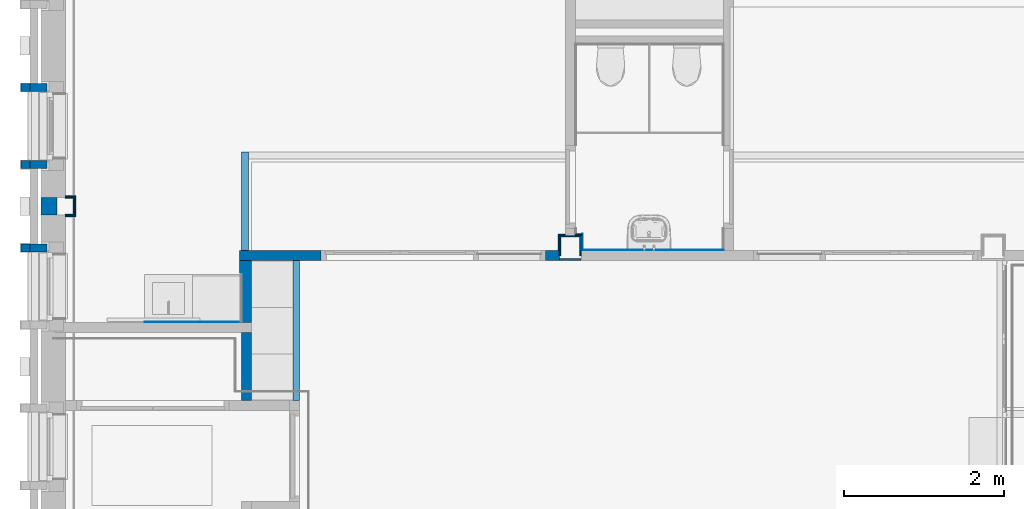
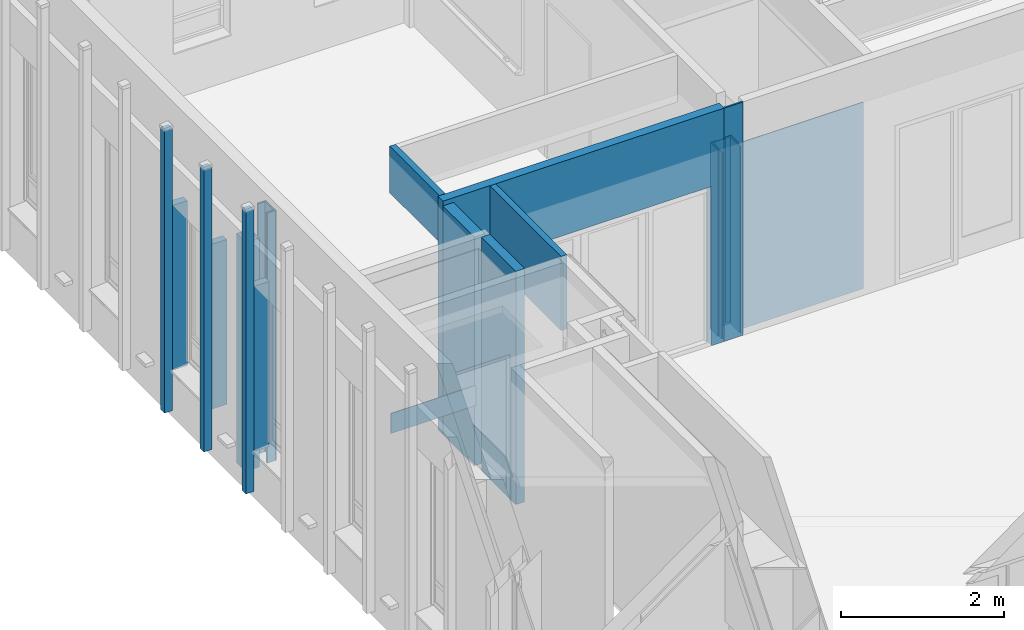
# One storey, part 51 of 118: 30 walls, 1 opening.
"""IFC2X3 building model written with IfcOpenShell, lengths in millimetres."""

from ifc_helpers import new_model, entity, si_unit, converted_unit, derived_unit, direction, frame, frame_2d, origin, place, context, subcontext, project, spatial, rectangle, extrude, material, layer, layer_set, layer_usage, type_object, element, save


model = new_model("IFC2X3")

# Units and contexts
model_context = context("Model", 3, precision=0.01, world=origin(), true_north=direction((6.123031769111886e-17, 1.0)))
plan_context = context("Plan", 3, precision=0.01, world=origin(), true_north=direction((6.123031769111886e-17, 1.0)))
body_context = subcontext(model_context, "Body", "Model", "MODEL_VIEW")
ifc_project = project(units=[si_unit("LENGTHUNIT", "METRE", prefix="MILLI"), si_unit("AREAUNIT", "SQUARE_METRE"), si_unit("VOLUMEUNIT", "CUBIC_METRE"), converted_unit("PLANEANGLEUNIT", "DEGREE", entity("IfcRatioMeasure", 0.017453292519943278), si_unit("PLANEANGLEUNIT", "RADIAN"), dimensions=[0, 0, 0, 0, 0, 0, 0]), si_unit("MASSUNIT", "GRAM", prefix="KILO"), derived_unit("MASSDENSITYUNIT", [(si_unit("MASSUNIT", "GRAM", prefix="KILO"), 1), (si_unit("LENGTHUNIT", "METRE"), -3)]), derived_unit("IONCONCENTRATIONUNIT", [(si_unit("MASSUNIT", "GRAM", prefix="KILO"), 1), (si_unit("LENGTHUNIT", "METRE"), -3)]), derived_unit("MOMENTOFINERTIAUNIT", [(si_unit("LENGTHUNIT", "METRE"), 4)]), si_unit("TIMEUNIT", "SECOND"), si_unit("FREQUENCYUNIT", "HERTZ"), si_unit("THERMODYNAMICTEMPERATUREUNIT", "DEGREE_CELSIUS"), derived_unit("THERMALTRANSMITTANCEUNIT", [(si_unit("MASSUNIT", "GRAM", prefix="KILO"), 1), (si_unit("THERMODYNAMICTEMPERATUREUNIT", "KELVIN"), -1), (si_unit("TIMEUNIT", "SECOND"), -3)]), derived_unit("THERMALCONDUCTANCEUNIT", [(si_unit("MASSUNIT", "GRAM", prefix="KILO"), 1), (si_unit("THERMODYNAMICTEMPERATUREUNIT", "KELVIN"), -1), (si_unit("TIMEUNIT", "SECOND"), -3), (si_unit("LENGTHUNIT", "METRE"), 1)]), derived_unit("VOLUMETRICFLOWRATEUNIT", [(si_unit("LENGTHUNIT", "METRE"), 3), (si_unit("TIMEUNIT", "SECOND"), -1)]), derived_unit("MASSFLOWRATEUNIT", [(si_unit("MASSUNIT", "GRAM", prefix="KILO"), 1), (si_unit("TIMEUNIT", "SECOND"), -1)]), derived_unit("ROTATIONALFREQUENCYUNIT", [(si_unit("TIMEUNIT", "SECOND"), -1)]), si_unit("ELECTRICCURRENTUNIT", "AMPERE"), si_unit("ELECTRICVOLTAGEUNIT", "VOLT"), si_unit("POWERUNIT", "WATT"), si_unit("FORCEUNIT", "NEWTON", prefix="KILO"), si_unit("ILLUMINANCEUNIT", "LUX"), si_unit("LUMINOUSFLUXUNIT", "LUMEN"), si_unit("LUMINOUSINTENSITYUNIT", "CANDELA"), derived_unit("USERDEFINED", [(si_unit("MASSUNIT", "GRAM", prefix="KILO"), -1), (si_unit("LENGTHUNIT", "METRE"), -2), (si_unit("TIMEUNIT", "SECOND"), 3), (si_unit("LUMINOUSFLUXUNIT", "LUMEN"), 1)]), derived_unit("USERDEFINED", [(si_unit("MASSUNIT", "GRAM", prefix="KILO"), 1), (si_unit("TIMEUNIT", "SECOND"), -3), (si_unit("LENGTHUNIT", "METRE"), 3), (si_unit("ELECTRICCURRENTUNIT", "AMPERE"), -2)]), derived_unit("SOUNDPOWERUNIT", [(si_unit("MASSUNIT", "GRAM", prefix="KILO"), 1), (si_unit("TIMEUNIT", "SECOND"), -3), (si_unit("LENGTHUNIT", "METRE"), 2)]), derived_unit("SOUNDPRESSUREUNIT", [(si_unit("MASSUNIT", "GRAM", prefix="KILO"), 1), (si_unit("LENGTHUNIT", "METRE"), -1), (si_unit("TIMEUNIT", "SECOND"), -2)]), derived_unit("LINEARVELOCITYUNIT", [(si_unit("LENGTHUNIT", "METRE"), 1), (si_unit("TIMEUNIT", "SECOND"), -1)]), si_unit("PRESSUREUNIT", "PASCAL"), derived_unit("USERDEFINED", [(si_unit("MASSUNIT", "GRAM", prefix="KILO"), 1), (si_unit("LENGTHUNIT", "METRE"), -2), (si_unit("TIMEUNIT", "SECOND"), -2)]), derived_unit("LINEARFORCEUNIT", [(si_unit("MASSUNIT", "GRAM", prefix="KILO"), 1), (si_unit("TIMEUNIT", "SECOND"), -2)]), derived_unit("PLANARFORCEUNIT", [(si_unit("MASSUNIT", "GRAM", prefix="KILO"), 1), (si_unit("LENGTHUNIT", "METRE"), -1), (si_unit("TIMEUNIT", "SECOND"), -2)]), derived_unit("SPECIFICHEATCAPACITYUNIT", [(si_unit("THERMODYNAMICTEMPERATUREUNIT", "KELVIN"), -1), (si_unit("LENGTHUNIT", "METRE"), 2), (si_unit("TIMEUNIT", "SECOND"), -2)]), derived_unit("HEATINGVALUEUNIT", [(si_unit("LENGTHUNIT", "METRE"), 2), (si_unit("TIMEUNIT", "SECOND"), -2)]), derived_unit("VAPORPERMEABILITYUNIT", [(si_unit("LENGTHUNIT", "METRE"), -1), (si_unit("TIMEUNIT", "SECOND"), 1)]), derived_unit("DYNAMICVISCOSITYUNIT", [(si_unit("MASSUNIT", "GRAM", prefix="KILO"), 1), (si_unit("TIMEUNIT", "SECOND"), -1), (si_unit("LENGTHUNIT", "METRE"), -1)]), derived_unit("THERMALEXPANSIONCOEFFICIENTUNIT", [(si_unit("THERMODYNAMICTEMPERATUREUNIT", "KELVIN"), -1)]), derived_unit("MODULUSOFELASTICITYUNIT", [(si_unit("MASSUNIT", "GRAM", prefix="KILO"), 1), (si_unit("LENGTHUNIT", "METRE"), -1), (si_unit("TIMEUNIT", "SECOND"), -2)]), derived_unit("ISOTHERMALMOISTURECAPACITYUNIT", [(si_unit("LENGTHUNIT", "METRE"), 3), (si_unit("MASSUNIT", "GRAM", prefix="KILO"), -1)]), derived_unit("MOISTUREDIFFUSIVITYUNIT", [(si_unit("TIMEUNIT", "SECOND"), -1), (si_unit("LENGTHUNIT", "METRE"), 2)])], contexts=[model_context, plan_context])

# Site, building, storey
site_placement = place(None, origin())
site = spatial("IfcSite", under=ifc_project, at=site_placement, Name="Locatie", CompositionType="ELEMENT")
building_placement = place(site_placement, origin())
building = spatial("IfcBuilding", under=site, at=building_placement, Name="Bouwwerk", CompositionType="ELEMENT")
storey_placement = place(building_placement, frame((0.0, 0.0, 7800.0)))
storey = spatial("IfcBuildingStorey", under=building, at=storey_placement, Name="02 tweede verdieping", CompositionType="ELEMENT", Elevation=7800.000000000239)

# Walls
ifc_material_1 = material(Name="g2_metselwerk_geel licht")
ifc_layer_1 = layer(ifc_material_1, 100.0)
ifc_layer_set_1 = layer_set([ifc_layer_1], Name="Basic Wall:21_WA_metselwerk_licht_100_gen_bdg")
ifc_layer_usage_1 = layer_usage(ifc_layer_set_1, "AXIS2", "NEGATIVE", 50.0)
wall_type_1 = type_object("IfcWallType", Name="Basic Wall:21_WA_metselwerk_licht_100_gen_bdg", PredefinedType="STANDARD", material=ifc_layer_set_1)
wall_1_placement = place(storey_placement, frame((9770.0, 26682.0, 603.0), z_axis=(0.0, 0.0, 1.0), x_axis=(-1.0, 0.0, 0.0)))
element("IfcWallStandardCase", 1, at=wall_1_placement, inside=storey, type_object=wall_type_1, material=ifc_layer_usage_1, Name="Basic Wall:21_WA_metselwerk_licht_100_gen_bdg", ObjectType="Basic Wall:21_WA_metselwerk_licht_100_gen_bdg", context=body_context, shape_type="SweptSolid", body=[
    extrude(rectangle(XDim=210.0000000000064, YDim=100.00000000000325, at=frame_2d((105.00000000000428, -4.654054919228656e-13), x_axis=(-1.0, 0.0))), origin(), (0.0, 0.0, 1.0), 2471.999999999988),
])
wall_2_placement = place(storey_placement, frame((9560.0, 26682.0, 0.0), z_axis=(0.0, 0.0, 1.0), x_axis=(-1.0, 0.0, 0.0)))
element("IfcWallStandardCase", 2, at=wall_2_placement, inside=storey, type_object=wall_type_1, material=ifc_layer_usage_1, Name="Basic Wall:21_WA_metselwerk_licht_100_gen_bdg", ObjectType="Basic Wall:21_WA_metselwerk_licht_100_gen_bdg", context=body_context, shape_type="SweptSolid", body=[
    extrude(rectangle(XDim=114.99999999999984, YDim=100.00000000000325, at=frame_2d((57.49999999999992, 1.2434497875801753e-12), x_axis=(-1.0, 0.0))), origin(), (0.0, 0.0, 1.0), 4232.000000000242),
])
wall_3_placement = place(storey_placement, frame((9770.0, 28682.0, 603.0), z_axis=(0.0, 0.0, 1.0), x_axis=(-1.0, 0.0, 0.0)))
element("IfcWallStandardCase", 3, at=wall_3_placement, inside=storey, type_object=wall_type_1, material=ifc_layer_usage_1, Name="Basic Wall:21_WA_metselwerk_licht_100_gen_bdg", ObjectType="Basic Wall:21_WA_metselwerk_licht_100_gen_bdg", context=body_context, shape_type="SweptSolid", body=[
    extrude(rectangle(XDim=210.00000000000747, YDim=100.00000000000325, at=frame_2d((105.00000000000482, -4.654054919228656e-13), x_axis=(-1.0, 0.0))), origin(), (0.0, 0.0, 1.0), 2471.999999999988),
])
wall_4_placement = place(storey_placement, frame((9560.0, 28682.0, 0.0), z_axis=(0.0, 0.0, 1.0), x_axis=(-1.0, 0.0, 0.0)))
element("IfcWallStandardCase", 4, at=wall_4_placement, inside=storey, type_object=wall_type_1, material=ifc_layer_usage_1, Name="Basic Wall:21_WA_metselwerk_licht_100_gen_bdg", ObjectType="Basic Wall:21_WA_metselwerk_licht_100_gen_bdg", context=body_context, shape_type="SweptSolid", body=[
    extrude(rectangle(XDim=114.99999999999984, YDim=100.00000000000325, at=frame_2d((57.49999999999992, 1.2434497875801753e-12), x_axis=(-1.0, 0.0))), origin(), (0.0, 0.0, 1.0), 4232.000000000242),
])
ifc_layer_usage_2 = layer_usage(ifc_layer_set_1, "AXIS2", "POSITIVE", -50.0)
wall_5_placement = place(storey_placement, frame((9770.0, 27718.0, 603.0), z_axis=(0.0, 0.0, 1.0), x_axis=(-1.0, 0.0, 0.0)))
element("IfcWallStandardCase", 5, at=wall_5_placement, inside=storey, type_object=wall_type_1, material=ifc_layer_usage_2, Name="Basic Wall:21_WA_metselwerk_licht_100_gen_bdg", ObjectType="Basic Wall:21_WA_metselwerk_licht_100_gen_bdg", context=body_context, shape_type="SweptSolid", body=[
    extrude(rectangle(XDim=210.00000000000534, YDim=100.00000000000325, at=frame_2d((105.00000000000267, 1.0196288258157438e-12), x_axis=(-1.0, 0.0))), origin(), (0.0, 0.0, 1.0), 2471.999999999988),
])
wall_6_placement = place(storey_placement, frame((9560.0, 27718.0, 0.0), z_axis=(0.0, 0.0, 1.0), x_axis=(-1.0, 0.0, 0.0)))
element("IfcWallStandardCase", 6, at=wall_6_placement, inside=storey, type_object=wall_type_1, material=ifc_layer_usage_2, Name="Basic Wall:21_WA_metselwerk_licht_100_gen_bdg", ObjectType="Basic Wall:21_WA_metselwerk_licht_100_gen_bdg", context=body_context, shape_type="SweptSolid", body=[
    extrude(rectangle(XDim=114.99999999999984, YDim=100.00000000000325, at=frame_2d((57.49999999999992, 1.2434497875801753e-12), x_axis=(-1.0, 0.0))), origin(), (0.0, 0.0, 1.0), 4231.99999999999),
])

# Wall, opening
ifc_material_2 = material(Name="f7_gipsvezel")
ifc_layer_2 = layer(ifc_material_2, 12.5)
ifc_material_3 = material(Name="f7_gips")
ifc_layer_3 = layer(ifc_material_3, 12.5)
ifc_material_4 = material(Name="n7_isolatie_glaswol")
ifc_layer_4 = layer(ifc_material_4, 75.0)
ifc_layer_5 = layer(ifc_material_3, 12.5)
ifc_layer_6 = layer(ifc_material_2, 12.5)
ifc_layer_set_2 = layer_set([ifc_layer_2, ifc_layer_3, ifc_layer_4, ifc_layer_5, ifc_layer_6], Name="Basic Wall: 25-75-25 _gen_bdg")
ifc_layer_usage_3 = layer_usage(ifc_layer_set_2, "AXIS2", "NEGATIVE", 62.50000000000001)
wall_type_2 = type_object("IfcWallType", Name="Basic Wall: 25-75-25 _gen_bdg", PredefinedType="STANDARD", material=ifc_layer_set_2)
wall_7_placement = place(storey_placement, frame((12175.0, 26587.500000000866, 0.0)))
wall_7 = element("IfcWallStandardCase", 7, at=wall_7_placement, inside=storey, type_object=wall_type_2, material=ifc_layer_usage_3, Name="Basic Wall: 25-75-25 _gen_bdg", ObjectType="Basic Wall: 25-75-25 _gen_bdg", context=body_context, shape_type="SweptSolid", body=[
    extrude(rectangle(XDim=3989.9999998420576, YDim=125.0000000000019, at=frame_2d((1994.9999999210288, -2.035704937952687e-12), x_axis=(1.0, 0.0))), origin(), (0.0, 0.0, 1.0), 3500.0000000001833),
])
opening_placement = place(wall_7_placement, frame((-12175.0, -26587.500000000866, 0.0)))
element("IfcOpeningElement", 8, at=opening_placement, cuts=wall_7, Name="Basic Wall: 25-75-25 _gen_bdg", ObjectType="Opening", context=body_context, shape_type="SweptSolid", body=[
    extrude(rectangle(XDim=2386.9999999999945, YDim=2795.999999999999, at=frame_2d((0.0, -1.0231815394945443e-12), x_axis=(1.0, 0.0))), frame((14589.49999999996, 25001.0, 1193.4999999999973), z_axis=(0.0, 1.0, 0.0), x_axis=(0.0, 0.0, 1.0)), (0.0, 0.0, 1.0), 3048.0),
])

# Walls
wall_8_placement = place(storey_placement, frame((12262.500000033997, 24775.0, 0.0), z_axis=(0.0, 0.0, 1.0), x_axis=(0.0, 1.0, 0.0)))
element("IfcWallStandardCase", 9, at=wall_8_placement, inside=storey, type_object=wall_type_2, material=ifc_layer_usage_3, Name="Basic Wall: 25-75-25 _gen_bdg", ObjectType="Basic Wall: 25-75-25 _gen_bdg", context=body_context, shape_type="SweptSolid", body=[
    extrude(rectangle(XDim=850.0000000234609, YDim=125.0000000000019, at=frame_2d((425.00000001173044, 7.318590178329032e-13), x_axis=(-1.0, 0.0))), origin(), (0.0, 0.0, 1.0), 3500.0000000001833),
])
ifc_layer_7 = layer(ifc_material_2, 13.000000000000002)
ifc_layer_set_3 = layer_set([ifc_layer_7], Name="Basic Wall:NLRS_41_WA_gips 13_gen_ISR")
ifc_layer_usage_4 = layer_usage(ifc_layer_set_3, "AXIS2", "NEGATIVE", 6.500000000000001)
wall_type_3 = type_object("IfcWallType", Name="Basic Wall:NLRS_41_WA_gips 13_gen_ISR", PredefinedType="STANDARD", material=ifc_layer_set_3)
wall_9_placement = place(storey_placement, frame((10121.50000000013, 27328.0, 0.0), z_axis=(0.0, 0.0, 1.0), x_axis=(0.0, -1.0, 0.0)))
element("IfcWallStandardCase", 10, at=wall_9_placement, inside=storey, type_object=wall_type_3, material=ifc_layer_usage_4, Name="Basic Wall:NLRS_41_WA_gips 13_gen_ISR", ObjectType="Basic Wall:NLRS_41_WA_gips 13_gen_ISR", context=body_context, shape_type="SweptSolid", body=[
    extrude(rectangle(XDim=255.9999999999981, YDim=13.000000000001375, at=frame_2d((127.99999999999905, -4.871658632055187e-13), x_axis=(-1.0, 0.0))), origin(), (0.0, 0.0, 1.0), 3750.000000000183),
])
wall_10_placement = place(storey_placement, frame((10115.0, 27078.499999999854, 0.0), z_axis=(0.0, 0.0, 1.0), x_axis=(-1.0, 0.0, 0.0)))
element("IfcWallStandardCase", 11, at=wall_10_placement, inside=storey, type_object=wall_type_3, material=ifc_layer_usage_4, Name="Basic Wall:NLRS_41_WA_gips 13_gen_ISR", ObjectType="Basic Wall:NLRS_41_WA_gips 13_gen_ISR", context=body_context, shape_type="SweptSolid", body=[
    extrude(rectangle(XDim=115.00000000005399, YDim=12.999999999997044, at=frame_2d((57.50000000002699, 6.865619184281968e-13), x_axis=(-1.0, 0.0))), origin(), (0.0, 0.0, 1.0), 3750.000000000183),
])
ifc_layer_usage_5 = layer_usage(ifc_layer_set_3, "AXIS2", "POSITIVE", -6.500000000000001)
wall_11_placement = place(storey_placement, frame((10115.0, 27321.499999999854, 0.0), z_axis=(0.0, 0.0, 1.0), x_axis=(-1.0, 0.0, 0.0)))
element("IfcWallStandardCase", 12, at=wall_11_placement, inside=storey, type_object=wall_type_3, material=ifc_layer_usage_5, Name="Basic Wall:NLRS_41_WA_gips 13_gen_ISR", ObjectType="Basic Wall:NLRS_41_WA_gips 13_gen_ISR", context=body_context, shape_type="SweptSolid", body=[
    extrude(rectangle(XDim=115.00000000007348, YDim=12.999999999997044, at=frame_2d((57.50000000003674, 6.865619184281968e-13), x_axis=(-1.0, 0.0))), origin(), (0.0, 0.0, 1.0), 3750.000000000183),
])
wall_12_placement = place(storey_placement, frame((16237.50000000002, 26841.499999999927, 0.0), z_axis=(0.0, 0.0, 1.0), x_axis=(-1.0, 0.0, 0.0)))
element("IfcWallStandardCase", 13, at=wall_12_placement, inside=storey, type_object=wall_type_3, material=ifc_layer_usage_4, Name="Basic Wall:NLRS_41_WA_gips 13_gen_ISR", ObjectType="Basic Wall:NLRS_41_WA_gips 13_gen_ISR", context=body_context, shape_type="SweptSolid", body=[
    extrude(rectangle(XDim=85.50000000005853, YDim=12.999999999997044, at=frame_2d((42.75000000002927, 0.0), x_axis=(-1.0, 0.0))), origin(), (0.0, 0.0, 1.0), 2800.0),
])
wall_13_placement = place(storey_placement, frame((16158.49999999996, 26835.0, 0.0), z_axis=(0.0, 0.0, 1.0), x_axis=(0.0, -1.0, 0.0)))
element("IfcWallStandardCase", 14, at=wall_13_placement, inside=storey, type_object=wall_type_3, material=ifc_layer_usage_4, Name="Basic Wall:NLRS_41_WA_gips 13_gen_ISR", ObjectType="Basic Wall:NLRS_41_WA_gips 13_gen_ISR", context=body_context, shape_type="SweptSolid", body=[
    extrude(rectangle(XDim=184.99999999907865, YDim=13.000000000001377, at=frame_2d((92.49999999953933, 0.0), x_axis=(-1.0, 0.0))), origin(), (0.0, 0.0, 1.0), 2800.0),
])
wall_14_placement = place(storey_placement, frame((16362.50000000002, 26841.499999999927, 0.0)))
element("IfcWallStandardCase", 15, at=wall_14_placement, inside=storey, type_object=wall_type_3, material=ifc_layer_usage_5, Name="Basic Wall:NLRS_41_WA_gips 13_gen_ISR", ObjectType="Basic Wall:NLRS_41_WA_gips 13_gen_ISR", context=body_context, shape_type="SweptSolid", body=[
    extrude(rectangle(XDim=85.50000000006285, YDim=12.999999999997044, at=frame_2d((42.75000000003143, 0.0), x_axis=(-1.0, 0.0))), origin(), (0.0, 0.0, 1.0), 2800.0),
])
wall_15_placement = place(storey_placement, frame((16441.500000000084, 26835.0, 0.0), z_axis=(0.0, 0.0, 1.0), x_axis=(0.0, -1.0, 0.0)))
element("IfcWallStandardCase", 16, at=wall_15_placement, inside=storey, type_object=wall_type_3, material=ifc_layer_usage_5, Name="Basic Wall:NLRS_41_WA_gips 13_gen_ISR", ObjectType="Basic Wall:NLRS_41_WA_gips 13_gen_ISR", context=body_context, shape_type="SweptSolid", body=[
    extrude(rectangle(XDim=184.99999999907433, YDim=13.000000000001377, at=frame_2d((92.49999999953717, 0.0), x_axis=(-1.0, 0.0))), origin(), (0.0, 0.0, 1.0), 2800.0),
])
ifc_layer_8 = layer(ifc_material_2, 13.000000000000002)
ifc_material_5 = material(Name="ISR_Luchtspouw")
ifc_layer_9 = layer(ifc_material_5, 71.0)
ifc_layer_set_4 = layer_set([ifc_layer_8, ifc_layer_9], Name="Basic Wall:22_WA_koof_83 12-71")
ifc_layer_usage_6 = layer_usage(ifc_layer_set_4, "AXIS2", "NEGATIVE", 41.99999999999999)
wall_type_4 = type_object("IfcWallType", Name="Basic Wall:22_WA_koof_83 12-71", PredefinedType="STANDARD", material=ifc_layer_set_4)
wall_16_placement = place(storey_placement, frame((12242.0, 26650.0, 2800.0), z_axis=(0.0, 0.0, 1.0), x_axis=(0.0, 1.0, 0.0)))
element("IfcWallStandardCase", 17, at=wall_16_placement, inside=storey, type_object=wall_type_4, material=ifc_layer_usage_6, Name="Basic Wall:22_WA_koof_83 12-71", ObjectType="Basic Wall:22_WA_koof_83 12-71", context=body_context, shape_type="SweptSolid", body=[
    extrude(rectangle(XDim=1225.0000000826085, YDim=83.99999999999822, at=frame_2d((612.5000000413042, 2.1316282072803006e-14), x_axis=(-1.0, 0.0))), origin(), (0.0, 0.0, 1.0), 700.000000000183),
])
wall_17_placement = place(storey_placement, frame((12883.0, 26525.0, 2387.0), z_axis=(0.0, 0.0, 1.0), x_axis=(0.0, -1.0, 0.0)))
element("IfcWallStandardCase", 18, at=wall_17_placement, inside=storey, type_object=wall_type_4, material=ifc_layer_usage_6, Name="Basic Wall:22_WA_koof_83 12-71", ObjectType="Basic Wall:22_WA_koof_83 12-71", context=body_context, shape_type="SweptSolid", body=[
    extrude(rectangle(XDim=1750.0000000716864, YDim=83.99999999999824, at=frame_2d((875.0000000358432, 2.2026824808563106e-13), x_axis=(-1.0, 0.0))), origin(), (0.0, 0.0, 1.0), 1113.00000000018),
])
ifc_material_6 = material(Name="g3_tegels_creme_150x150")
ifc_layer_10 = layer(ifc_material_6, 10.0)
ifc_layer_set_5 = layer_set([ifc_layer_10], Name="Basic Wall:21_WA_tegelwerk 10")
ifc_layer_usage_7 = layer_usage(ifc_layer_set_5, "AXIS2", "NEGATIVE", 4.999999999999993)
wall_type_5 = type_object("IfcWallType", Name="Basic Wall:21_WA_tegelwerk 10", PredefinedType="STANDARD", material=ifc_layer_set_5)
wall_18_placement = place(storey_placement, frame((18212.500000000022, 26655.0, 0.0), z_axis=(0.0, 0.0, 1.0), x_axis=(-1.0, 0.0, 0.0)))
element("IfcWallStandardCase", 19, at=wall_18_placement, inside=storey, type_object=wall_type_5, material=ifc_layer_usage_7, Name="Basic Wall:21_WA_tegelwerk 10", ObjectType="Basic Wall:21_WA_tegelwerk 10", context=body_context, shape_type="SweptSolid", body=[
    extrude(rectangle(XDim=1764.4999999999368, YDim=9.999999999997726, at=frame_2d((882.2499999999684, -2.042810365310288e-14), x_axis=(-1.0, 0.0))), origin(), (0.0, 0.0, 1.0), 2800.0),
])
wall_19_placement = place(storey_placement, frame((16453.0, 26660.0, 0.0), z_axis=(0.0, 0.0, 1.0), x_axis=(0.0, 1.0, 0.0)))
element("IfcWallStandardCase", 20, at=wall_19_placement, inside=storey, type_object=wall_type_5, material=ifc_layer_usage_7, Name="Basic Wall:21_WA_tegelwerk 10", ObjectType="Basic Wall:21_WA_tegelwerk 10", context=body_context, shape_type="SweptSolid", body=[
    extrude(rectangle(XDim=198.00000008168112, YDim=10.000000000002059, at=frame_2d((99.00000004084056, 0.0), x_axis=(-1.0, 0.0))), origin(), (0.0, 0.0, 1.0), 2800.0),
])
wall_20_placement = place(storey_placement, frame((16448.0, 26853.0, 0.0), z_axis=(0.0, 0.0, 1.0), x_axis=(-1.0, 0.0, 0.0)))
element("IfcWallStandardCase", 21, at=wall_20_placement, inside=storey, type_object=wall_type_5, material=ifc_layer_usage_7, Name="Basic Wall:21_WA_tegelwerk 10", ObjectType="Basic Wall:21_WA_tegelwerk 10", context=body_context, shape_type="SweptSolid", body=[
    extrude(rectangle(XDim=75.50000000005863, YDim=9.999999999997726, at=frame_2d((37.75000000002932, 0.0), x_axis=(-1.0, 0.0))), origin(), (0.0, 0.0, 1.0), 2800.0),
])
ifc_material_7 = material(Name="n7_isolatie_Resol")
ifc_layer_11 = layer(ifc_material_7, 200.0)
ifc_layer_set_6 = layer_set([ifc_layer_11], Name="Basic Wall:NLRS_22_WA_HSB bispouw 200_gen_ISR")
ifc_layer_usage_8 = layer_usage(ifc_layer_set_6, "AXIS2", "NEGATIVE", 100.0)
wall_type_6 = type_object("IfcWallType", Name="Basic Wall:NLRS_22_WA_HSB bispouw 200_gen_ISR", PredefinedType="STANDARD", material=ifc_layer_set_6)
wall_21_placement = place(storey_placement, frame((9800.0, 27090.0, -30.0), z_axis=(0.0, 0.0, 1.0), x_axis=(0.0, 1.0, 0.0)))
element("IfcWallStandardCase", 22, at=wall_21_placement, inside=storey, type_object=wall_type_6, material=ifc_layer_usage_8, Name="Basic Wall:NLRS_22_WA_HSB bispouw 200_gen_ISR", ObjectType="Basic Wall:NLRS_22_WA_HSB bispouw 200_gen_ISR", context=body_context, shape_type="SweptSolid", body=[
    extrude(rectangle(XDim=220.00000000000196, YDim=199.99999999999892, at=frame_2d((110.00000000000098, -1.0658141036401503e-13), x_axis=(-1.0, 0.0))), origin(), (0.0, 0.0, 1.0), 3440.0000000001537),
])
ifc_layer_12 = layer(ifc_material_3, 12.0)
ifc_layer_set_7 = layer_set([ifc_layer_12], Name="Basic Wall:NLRS_41_WA_beplating 12_gen_ISR")
ifc_layer_usage_9 = layer_usage(ifc_layer_set_7, "AXIS2", "NEGATIVE", 6.0)
wall_type_7 = type_object("IfcWallType", Name="Basic Wall:NLRS_41_WA_beplating 12_gen_ISR", PredefinedType="STANDARD", material=ifc_layer_set_7)
wall_22_placement = place(storey_placement, frame((10990.0, 25756.0, 900.0)))
element("IfcWallStandardCase", 23, at=wall_22_placement, inside=storey, type_object=wall_type_7, material=ifc_layer_usage_9, Name="Basic Wall:NLRS_41_WA_beplating 12_gen_ISR", ObjectType="Basic Wall:NLRS_41_WA_beplating 12_gen_ISR", context=body_context, shape_type="SweptSolid", body=[
    extrude(rectangle(XDim=1210.0000205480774, YDim=11.999999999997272, at=frame_2d((605.0000102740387, 0.0), x_axis=(-1.0, 0.0))), origin(), (0.0, 0.0, 1.0), 300.0000000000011),
])
ifc_material_8 = material(Name="ISR_brandwerende beplating")
ifc_layer_13 = layer(ifc_material_8, 15.0)
ifc_layer_set_8 = layer_set([ifc_layer_13], Name="Basic Wall:NLRS_41_WA_brandwerende beplating 15_gen_ISR")
ifc_layer_usage_10 = layer_usage(ifc_layer_set_8, "AXIS2", "POSITIVE", -7.5)
wall_type_8 = type_object("IfcWallType", Name="Basic Wall:NLRS_41_WA_brandwerende beplating 15_gen_ISR", PredefinedType="STANDARD", material=ifc_layer_set_8)
wall_23_placement = place(storey_placement, frame((16427.50000000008, 26835.0, 0.0), z_axis=(0.0, 0.0, 1.0), x_axis=(0.0, -1.0, 0.0)))
element("IfcWallStandardCase", 24, at=wall_23_placement, inside=storey, type_object=wall_type_8, material=ifc_layer_usage_10, Name="Basic Wall:NLRS_41_WA_brandwerende beplating 15_gen_ISR", ObjectType="Basic Wall:NLRS_41_WA_brandwerende beplating 15_gen_ISR", context=body_context, shape_type="SweptSolid", body=[
    extrude(rectangle(XDim=254.999999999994, YDim=15.000000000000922, at=frame_2d((127.499999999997, 0.0), x_axis=(-1.0, 0.0))), origin(), (0.0, 0.0, 1.0), 2800.0),
])
ifc_layer_usage_11 = layer_usage(ifc_layer_set_8, "AXIS2", "NEGATIVE", 7.5)
wall_24_placement = place(storey_placement, frame((16172.499999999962, 26835.0, 0.0), z_axis=(0.0, 0.0, 1.0), x_axis=(0.0, -1.0, 0.0)))
element("IfcWallStandardCase", 25, at=wall_24_placement, inside=storey, type_object=wall_type_8, material=ifc_layer_usage_11, Name="Basic Wall:NLRS_41_WA_brandwerende beplating 15_gen_ISR", ObjectType="Basic Wall:NLRS_41_WA_brandwerende beplating 15_gen_ISR", context=body_context, shape_type="SweptSolid", body=[
    extrude(rectangle(XDim=254.999999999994, YDim=15.000000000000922, at=frame_2d((127.499999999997, 0.0), x_axis=(-1.0, 0.0))), origin(), (0.0, 0.0, 1.0), 2800.0),
])
wall_25_placement = place(storey_placement, frame((16420.0, 26827.499999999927, 0.0), z_axis=(0.0, 0.0, 1.0), x_axis=(-1.0, 0.0, 0.0)))
element("IfcWallStandardCase", 26, at=wall_25_placement, inside=storey, type_object=wall_type_8, material=ifc_layer_usage_11, Name="Basic Wall:NLRS_41_WA_brandwerende beplating 15_gen_ISR", ObjectType="Basic Wall:NLRS_41_WA_brandwerende beplating 15_gen_ISR", context=body_context, shape_type="SweptSolid", body=[
    extrude(rectangle(XDim=240.0000000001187, YDim=14.99999999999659, at=frame_2d((120.00000000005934, 0.0), x_axis=(-1.0, 0.0))), origin(), (0.0, 0.0, 1.0), 2800.0),
])
wall_26_placement = place(storey_placement, frame((10115.0, 27092.499999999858, 0.0), z_axis=(0.0, 0.0, 1.0), x_axis=(-1.0, 0.0, 0.0)))
element("IfcWallStandardCase", 27, at=wall_26_placement, inside=storey, type_object=wall_type_8, material=ifc_layer_usage_11, Name="Basic Wall:NLRS_41_WA_brandwerende beplating 15_gen_ISR", ObjectType="Basic Wall:NLRS_41_WA_brandwerende beplating 15_gen_ISR", context=body_context, shape_type="SweptSolid", body=[
    extrude(rectangle(XDim=115.00000000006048, YDim=14.99999999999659, at=frame_2d((57.50000000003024, 6.865619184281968e-13), x_axis=(-1.0, 0.0))), origin(), (0.0, 0.0, 1.0), 3750.000000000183),
])
wall_27_placement = place(storey_placement, frame((10115.0, 27307.499999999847, 0.0), z_axis=(0.0, 0.0, 1.0), x_axis=(-1.0, 0.0, 0.0)))
element("IfcWallStandardCase", 28, at=wall_27_placement, inside=storey, type_object=wall_type_8, material=ifc_layer_usage_10, Name="Basic Wall:NLRS_41_WA_brandwerende beplating 15_gen_ISR", ObjectType="Basic Wall:NLRS_41_WA_brandwerende beplating 15_gen_ISR", context=body_context, shape_type="SweptSolid", body=[
    extrude(rectangle(XDim=115.00000000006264, YDim=14.99999999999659, at=frame_2d((57.50000000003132, 6.865619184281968e-13), x_axis=(-1.0, 0.0))), origin(), (0.0, 0.0, 1.0), 3750.000000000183),
])
wall_28_placement = place(storey_placement, frame((10107.50000000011, 27300.0, 0.0), z_axis=(0.0, 0.0, 1.0), x_axis=(0.0, -1.0, 0.0)))
element("IfcWallStandardCase", 29, at=wall_28_placement, inside=storey, type_object=wall_type_8, material=ifc_layer_usage_11, Name="Basic Wall:NLRS_41_WA_brandwerende beplating 15_gen_ISR", ObjectType="Basic Wall:NLRS_41_WA_brandwerende beplating 15_gen_ISR", context=body_context, shape_type="SweptSolid", body=[
    extrude(rectangle(XDim=199.9999999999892, YDim=15.000000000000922, at=frame_2d((99.9999999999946, -3.1308289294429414e-13), x_axis=(-1.0, 0.0))), origin(), (0.0, 0.0, 1.0), 3750.000000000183),
])
ifc_layer_14 = layer(ifc_material_2, 12.5)
ifc_layer_15 = layer(ifc_material_3, 12.5)
ifc_layer_set_9 = layer_set([ifc_layer_14, ifc_layer_15], Name="Basic Wall:22_WA_2xgips 25 _gen_bdg")
ifc_layer_usage_12 = layer_usage(ifc_layer_set_9, "AXIS2", "POSITIVE", -12.5)
wall_type_9 = type_object("IfcWallType", Name="Basic Wall:22_WA_2xgips 25 _gen_bdg", PredefinedType="STANDARD", material=ifc_layer_set_9)
wall_29_placement = place(storey_placement, frame((16158.49999999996, 26537.500000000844, 0.0)))
element("IfcWallStandardCase", 30, at=wall_29_placement, inside=storey, type_object=wall_type_9, material=ifc_layer_usage_12, Name="Basic Wall:22_WA_2xgips 25 _gen_bdg", ObjectType="Basic Wall:22_WA_2xgips 25 _gen_bdg", context=body_context, shape_type="SweptSolid", body=[
    extrude(rectangle(XDim=270.00000000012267, YDim=24.99999999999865, at=frame_2d((141.50000000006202, 2.6352253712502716e-12), x_axis=(-1.0, 0.0))), origin(), (0.0, 0.0, 1.0), 3500.0000000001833),
])
ifc_layer_16 = layer(ifc_material_2, 12.5)
ifc_layer_17 = layer(ifc_material_3, 12.5)
ifc_layer_18 = layer(ifc_material_4, 100.0)
ifc_layer_19 = layer(ifc_material_3, 12.5)
ifc_layer_20 = layer(ifc_material_2, 12.5)
ifc_layer_set_10 = layer_set([ifc_layer_16, ifc_layer_17, ifc_layer_18, ifc_layer_19, ifc_layer_20], Name="Basic Wall: 25-100-25 _gen_bdg")
ifc_layer_usage_13 = layer_usage(ifc_layer_set_10, "AXIS2", "NEGATIVE", 75.0)
wall_type_10 = type_object("IfcWallType", Name="Basic Wall: 25-100-25 _gen_bdg", PredefinedType="STANDARD", material=ifc_layer_set_10)
wall_30_placement = place(storey_placement, frame((12250.0, 25750.0, 0.0), z_axis=(0.0, 0.0, 1.0), x_axis=(0.0, 1.0, 0.0)))
element("IfcWallStandardCase", 31, at=wall_30_placement, inside=storey, type_object=wall_type_10, material=ifc_layer_usage_13, Name="Basic Wall: 25-100-25 _gen_bdg", ObjectType="Basic Wall: 25-100-25 _gen_bdg", context=body_context, shape_type="SweptSolid", body=[
    extrude(rectangle(XDim=775.0000000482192, YDim=150.00000000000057, at=frame_2d((387.5000000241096, -4.405364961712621e-13), x_axis=(-1.0, 0.0))), origin(), (0.0, 0.0, 1.0), 3430.0000000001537),
])

save(model, "model.ifc")
